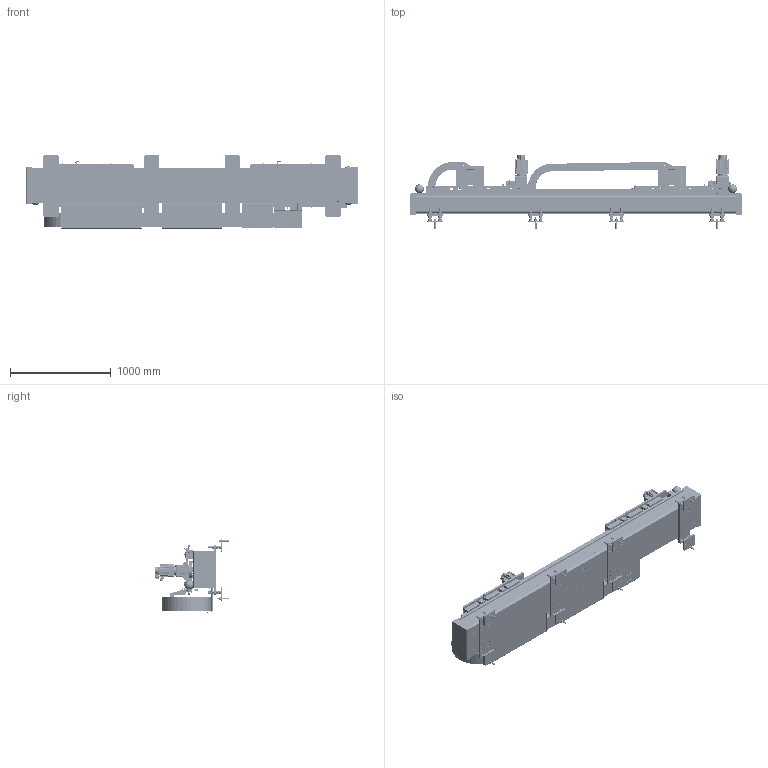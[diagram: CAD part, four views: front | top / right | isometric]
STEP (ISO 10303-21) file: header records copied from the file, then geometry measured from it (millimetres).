
FILE_DESCRIPTION (( 'STEP AP214' ), '1' );
FILE_NAME ('306545-200-1(TM2020_2000TR).STEP', '2024-05-13T08:05:36', ( '' ), ( '' ), 'SwSTEP 2.0', 'SolidWorks 2021', '' );
FILE_SCHEMA (( 'AUTOMOTIVE_DESIGN' ));
Length unit declared in the file: millimetre
Products named in the file (97): NUT(M8)_type2; Cap Screw_M5X10_M5-12; Cap Screw_M8X25_M8-25; 306545-102-1(スライドベース); HXPP3-STU-M4-10; 302055-109-1; 305985-107-0(搬送用金具); 306545-106-0(ギヤプレート); K5F1206-20; SHS45LV_集中給油ベース; 306545-200-1(TM2020_2000TR); ｽﾄﾚｰﾄｱﾀﾞﾌﾟﾀ(106001)_L=18; 306535-112-0(走行軸原点ブロック); EYE_BOLT(M24); PD4; Cap Screw_M8X15_M8-15; Cap Screw(SW,W)_M8X25_M8-25; 306535-111-0(アジャスタプレート); ｺﾝﾌﾟﾚｯｼｮンｽﾘｰﾌﾞ(106254); 306545-100-0_モータ Assy; 303156-106-0(位置決めﾋﾟﾝ); NutM20(SW_W)ASSY; SHS45LV(グリスニップル・集中給油)_継手(LF-C)L側; 306535-120-0(制音シート)_600L; RWS22; 306545-103-0(移動端ブラケット); 306535-116-0(板ワッシャ); 306535-114-0(原点調整治具); 306535-119-0(ケーブルレール(800L)); NUT(M20)_type1; 1-8_JIS-A; 306545-100-0-1_可動部 Assy_奥側; 302935-102-0(近接ブラケット); NutM20(W)ASSY; 303825-109-1(モータブラケット); C12(LM用ｷｬｯﾌﾟ); Cap Screw_M12X30_M12-30; 306535-118-0(ケーブルレール(600L) Assy); 306535-117-0(固定端ブラケット); FM00-150125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
Assembly tree (360 placements, depth 4):
  306545-200-1(TM2020_2000TR)
    306545-211-0(走行フレーム(2000TR))
    306545-100-0-1_可動部 Assy_奥側  x2
      306545-102-1(スライドベース)
      303156-106-0(位置決めﾋﾟﾝ)
      306545-100-0_モータ Assy
        303825-109-1(モータブラケット)
        VRXF-9E-K-28HA22
        MDMF202L1C6
        306545-105-0(ピニオンギア)
        306545-106-0(ギヤプレート)
        Cap Screw_M8X25_M8-25  x4
        Cap Screw_M10X25_M10-25  x4
        M5-5(SET(ギザ先))  x2
        Cap Screw_M10X20_M10-20
      306055-103-0(LMガイドストッパ)_Ｌ型（4点止め）
      302935-102-0(近接ブラケット)
      SHS45LV(グリスニップル・集中給油)_継手(LF-C)R側
        SHS45LV_集中給油ベース
        LF-C(THK)
        PD4
        ｺﾝﾌﾟﾚｯｼｮンﾌﾞｯｼﾝｸﾞ(106253)
        ｺﾝﾌﾟﾚｯｼｮンｽﾘｰﾌﾞ(106254)
        僫僀儘儞僠儏僂僽(冇4x冇2.5)
      SHS45LV(グリスニップル・集中給油)_継手(LF-C)L側 N(1-8)-75L L(1-8)逆
        SHS45LV_集中給油ベース
        LF-C(THK)
        PD4
        ｺﾝﾌﾟﾚｯｼｮンﾌﾞｯｼﾝｸﾞ(106253)
        ｺﾝﾌﾟﾚｯｼｮンｽﾘｰﾌﾞ(106254)
        僫僀儘儞僠儏僂僽(冇4x冇2.5)
        LongN-(1-8)-75L
        L-(1-8)
      SHS45LV(グリスニップル・集中給油)_継手(LF-C)L側
        SHS45LV_集中給油ベース
        LF-C(THK)
        PD4
        ｺﾝﾌﾟﾚｯｼｮンﾌﾞｯｼﾝｸﾞ(106253)
        ｺﾝﾌﾟﾚｯｼｮンｽﾘｰﾌﾞ(106254)
        僫僀儘儞僠儏僂僽(冇4x冇2.5)
      SHS45LV(グリスニップル・集中給油)_継手(LF-C)L側 N(1-8)-75L L(1-8)
        SHS45LV_集中給油ベース
        LF-C(THK)
        PD4
        ｺﾝﾌﾟﾚｯｼｮンﾌﾞｯｼﾝｸﾞ(106253)
        ｺﾝﾌﾟﾚｯｼｮンｽﾘｰﾌﾞ(106254)
        僫僀儘儞僠儏僂僽(冇4x冇2.5)
        LongN-(1-8)-75L
        L-(1-8)
      NUT(M8)_type2
      TL-Q5MC(配線有・横)
      ｽﾄﾚｰﾄｱﾀﾞﾌﾟﾀ(106001)_L=18
      ｴﾙﾎﾞｱﾀﾞﾌﾟﾀ(106029)_デフォルト
      ｺﾝﾌﾟﾚｯｼｮンﾌﾞｯｼﾝｸﾞ(106253)
      hexa bolt M8-50
      Cap Screw(SW_W)_M10X40_M10-40
      Cap Screw_M6X10_M6-10
      Cap Screw_M10X20_M10-20
      AB-4N(ナイロンクリップ)
      LKC（クレードル）
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Bounding box: 3296 x 731 x 732.5 mm (x, y, z)
Volume: 135588199.6 mm3; surface area: 27477153.1 mm2
Topology: 593 solids, 621 shells, 15615 faces, 37159 edges, 22833 vertices
Faces by surface type: plane 7125, cylinder 5542, cone 1856, bspline 990, torus 86, sphere 16
Full cylindrical faces by diameter (mm): 102 x2
Entity records: 176358 total; most frequent: CARTESIAN_POINT 34490, DIRECTION 26596, ORIENTED_EDGE 24062, EDGE_CURVE 12044, AXIS2_PLACEMENT_3D 10188, VERTEX_POINT 7762, EDGE_LOOP 6317, LINE 6220
